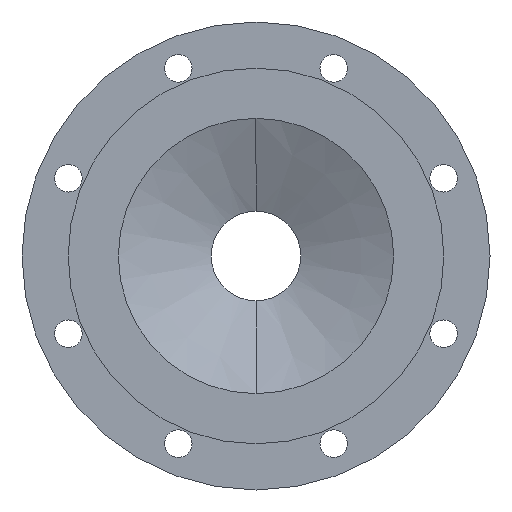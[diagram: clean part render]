
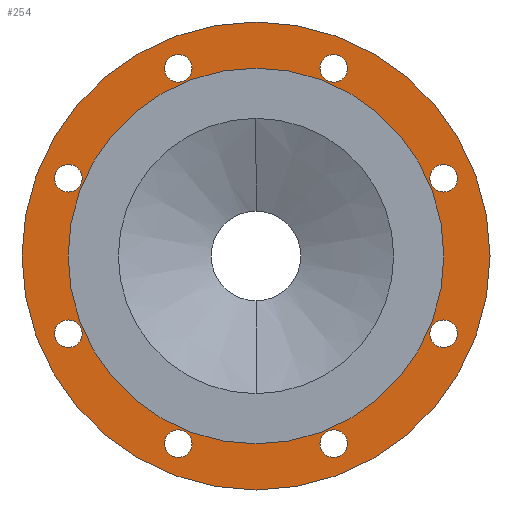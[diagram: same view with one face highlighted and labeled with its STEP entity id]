
A CAD part, left-side view. The second image highlights one B-rep face of the part: STEP entity #254.
In plain terms, the highlighted planar face has unit normal (-1, 0, 0).
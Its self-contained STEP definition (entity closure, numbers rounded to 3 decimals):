
#254=ADVANCED_FACE('',(#510,#511,#512,#513,#514,#515,#516,#517,#518,#519),#520,.F.);
#510=FACE_BOUND('',#835,.T.);
#511=FACE_BOUND('',#836,.T.);
#512=FACE_BOUND('',#837,.T.);
#513=FACE_BOUND('',#838,.T.);
#514=FACE_BOUND('',#839,.T.);
#515=FACE_BOUND('',#840,.T.);
#516=FACE_BOUND('',#841,.T.);
#517=FACE_BOUND('',#842,.T.);
#518=FACE_BOUND('',#843,.T.);
#519=FACE_OUTER_BOUND('',#844,.T.);
#520=PLANE('',#845);
#835=EDGE_LOOP('',(#1243,#1244));
#836=EDGE_LOOP('',(#1245,#1246));
#837=EDGE_LOOP('',(#1247,#1248));
#838=EDGE_LOOP('',(#1249,#1250));
#839=EDGE_LOOP('',(#1251,#1252));
#840=EDGE_LOOP('',(#1253,#1254));
#841=EDGE_LOOP('',(#1255,#1256));
#842=EDGE_LOOP('',(#1257,#1258));
#843=EDGE_LOOP('',(#1259,#1260));
#844=EDGE_LOOP('',(#1261,#1262));
#845=AXIS2_PLACEMENT_3D('',#1263,#1264,#1265);
#1243=ORIENTED_EDGE('',*,*,#1820,.T.);
#1244=ORIENTED_EDGE('',*,*,#1821,.T.);
#1245=ORIENTED_EDGE('',*,*,#1822,.T.);
#1246=ORIENTED_EDGE('',*,*,#1823,.T.);
#1247=ORIENTED_EDGE('',*,*,#1714,.T.);
#1248=ORIENTED_EDGE('',*,*,#1824,.T.);
#1249=ORIENTED_EDGE('',*,*,#1825,.T.);
#1250=ORIENTED_EDGE('',*,*,#1722,.T.);
#1251=ORIENTED_EDGE('',*,*,#1703,.T.);
#1252=ORIENTED_EDGE('',*,*,#1826,.T.);
#1253=ORIENTED_EDGE('',*,*,#1800,.T.);
#1254=ORIENTED_EDGE('',*,*,#1827,.T.);
#1255=ORIENTED_EDGE('',*,*,#1828,.T.);
#1256=ORIENTED_EDGE('',*,*,#1829,.T.);
#1257=ORIENTED_EDGE('',*,*,#1830,.T.);
#1258=ORIENTED_EDGE('',*,*,#1817,.T.);
#1259=ORIENTED_EDGE('',*,*,#1709,.T.);
#1260=ORIENTED_EDGE('',*,*,#1788,.T.);
#1261=ORIENTED_EDGE('',*,*,#1831,.F.);
#1262=ORIENTED_EDGE('',*,*,#1730,.F.);
#1263=CARTESIAN_POINT('',(1.0,0.0,0.));
#1264=DIRECTION('',(1.0,0.0,0.));
#1265=DIRECTION('',(0.,0.0,-1.0));
#1703=EDGE_CURVE('',#1974,#1978,#1980,.T.);
#1709=EDGE_CURVE('',#1984,#1988,#1990,.T.);
#1714=EDGE_CURVE('',#1993,#1997,#1999,.T.);
#1722=EDGE_CURVE('',#2013,#2011,#2014,.T.);
#1730=EDGE_CURVE('',#2025,#2020,#2027,.T.);
#1788=EDGE_CURVE('',#1988,#1984,#2121,.T.);
#1800=EDGE_CURVE('',#2134,#2136,#2138,.T.);
#1817=EDGE_CURVE('',#2166,#2164,#2167,.T.);
#1820=EDGE_CURVE('',#2170,#2171,#2172,.T.);
#1821=EDGE_CURVE('',#2171,#2170,#2173,.T.);
#1822=EDGE_CURVE('',#2174,#2175,#2176,.T.);
#1823=EDGE_CURVE('',#2175,#2174,#2177,.T.);
#1824=EDGE_CURVE('',#1997,#1993,#2178,.T.);
#1825=EDGE_CURVE('',#2011,#2013,#2179,.T.);
#1826=EDGE_CURVE('',#1978,#1974,#2180,.T.);
#1827=EDGE_CURVE('',#2136,#2134,#2181,.T.);
#1828=EDGE_CURVE('',#2182,#2183,#2184,.T.);
#1829=EDGE_CURVE('',#2183,#2182,#2185,.T.);
#1830=EDGE_CURVE('',#2164,#2166,#2186,.T.);
#1831=EDGE_CURVE('',#2020,#2025,#2187,.T.);
#1974=VERTEX_POINT('',#2359);
#1978=VERTEX_POINT('',#2364);
#1980=CIRCLE('',#2367,10.0);
#1984=VERTEX_POINT('',#2371);
#1988=VERTEX_POINT('',#2376);
#1990=CIRCLE('',#2379,136.5);
#1993=VERTEX_POINT('',#2382);
#1997=VERTEX_POINT('',#2387);
#1999=CIRCLE('',#2390,10.0);
#2011=VERTEX_POINT('',#2406);
#2013=VERTEX_POINT('',#2409);
#2014=CIRCLE('',#2410,10.0);
#2020=VERTEX_POINT('',#2417);
#2025=VERTEX_POINT('',#2423);
#2027=CIRCLE('',#2426,170.0);
#2121=CIRCLE('',#2549,136.5);
#2134=VERTEX_POINT('',#2567);
#2136=VERTEX_POINT('',#2570);
#2138=CIRCLE('',#2573,10.0);
#2164=VERTEX_POINT('',#2606);
#2166=VERTEX_POINT('',#2609);
#2167=CIRCLE('',#2610,10.0);
#2170=VERTEX_POINT('',#2614);
#2171=VERTEX_POINT('',#2615);
#2172=CIRCLE('',#2616,10.0);
#2173=CIRCLE('',#2617,10.0);
#2174=VERTEX_POINT('',#2618);
#2175=VERTEX_POINT('',#2619);
#2176=CIRCLE('',#2620,10.0);
#2177=CIRCLE('',#2621,10.0);
#2178=CIRCLE('',#2622,10.0);
#2179=CIRCLE('',#2623,10.0);
#2180=CIRCLE('',#2624,10.0);
#2181=CIRCLE('',#2625,10.0);
#2182=VERTEX_POINT('',#2626);
#2183=VERTEX_POINT('',#2627);
#2184=CIRCLE('',#2628,10.0);
#2185=CIRCLE('',#2629,10.0);
#2186=CIRCLE('',#2630,10.0);
#2187=CIRCLE('',#2631,170.0);
#2359=CARTESIAN_POINT('',(1.0,136.272,46.446));
#2364=CARTESIAN_POINT('',(1.,136.272,66.446));
#2367=AXIS2_PLACEMENT_3D('',#2836,#2837,#2838);
#2371=CARTESIAN_POINT('',(1.,0.0,-136.5));
#2376=CARTESIAN_POINT('',(1.,0.,136.5));
#2379=AXIS2_PLACEMENT_3D('',#2844,#2845,#2846);
#2382=CARTESIAN_POINT('',(1.0,-136.272,46.446));
#2387=CARTESIAN_POINT('',(1.,-136.272,66.446));
#2390=AXIS2_PLACEMENT_3D('',#2852,#2853,#2854);
#2406=CARTESIAN_POINT('',(1.0,-56.446,126.272));
#2409=CARTESIAN_POINT('',(1.,-56.446,146.272));
#2410=AXIS2_PLACEMENT_3D('',#2860,#2861,#2862);
#2417=CARTESIAN_POINT('',(1.,0.0,-170.0));
#2423=CARTESIAN_POINT('',(1.,0.,170.0));
#2426=AXIS2_PLACEMENT_3D('',#2872,#2873,#2874);
#2549=AXIS2_PLACEMENT_3D('',#2955,#2956,#2957);
#2567=CARTESIAN_POINT('',(1.0,56.446,126.272));
#2570=CARTESIAN_POINT('',(1.,56.446,146.272));
#2573=AXIS2_PLACEMENT_3D('',#2965,#2966,#2967);
#2606=CARTESIAN_POINT('',(1.0,-56.446,-146.272));
#2609=CARTESIAN_POINT('',(1.,-56.446,-126.272));
#2610=AXIS2_PLACEMENT_3D('',#2988,#2989,#2990);
#2614=CARTESIAN_POINT('',(1.0,136.272,-66.446));
#2615=CARTESIAN_POINT('',(1.0,136.272,-46.446));
#2616=AXIS2_PLACEMENT_3D('',#2992,#2993,#2994);
#2617=AXIS2_PLACEMENT_3D('',#2995,#2996,#2997);
#2618=CARTESIAN_POINT('',(1.0,56.446,-146.272));
#2619=CARTESIAN_POINT('',(1.,56.446,-126.272));
#2620=AXIS2_PLACEMENT_3D('',#2998,#2999,#3000);
#2621=AXIS2_PLACEMENT_3D('',#3001,#3002,#3003);
#2622=AXIS2_PLACEMENT_3D('',#3004,#3005,#3006);
#2623=AXIS2_PLACEMENT_3D('',#3007,#3008,#3009);
#2624=AXIS2_PLACEMENT_3D('',#3010,#3011,#3012);
#2625=AXIS2_PLACEMENT_3D('',#3013,#3014,#3015);
#2626=CARTESIAN_POINT('',(1.0,-136.272,-66.446));
#2627=CARTESIAN_POINT('',(1.0,-136.272,-46.446));
#2628=AXIS2_PLACEMENT_3D('',#3016,#3017,#3018);
#2629=AXIS2_PLACEMENT_3D('',#3019,#3020,#3021);
#2630=AXIS2_PLACEMENT_3D('',#3022,#3023,#3024);
#2631=AXIS2_PLACEMENT_3D('',#3025,#3026,#3027);
#2836=CARTESIAN_POINT('',(1.,136.272,56.446));
#2837=DIRECTION('',(1.0,0.0,0.));
#2838=DIRECTION('',(0.,0.0,-1.0));
#2844=CARTESIAN_POINT('',(1.0,0.0,0.));
#2845=DIRECTION('',(1.0,0.0,0.));
#2846=DIRECTION('',(0.,0.0,-1.0));
#2852=CARTESIAN_POINT('',(1.,-136.272,56.446));
#2853=DIRECTION('',(1.0,0.0,0.));
#2854=DIRECTION('',(0.,0.0,-1.0));
#2860=CARTESIAN_POINT('',(1.,-56.446,136.272));
#2861=DIRECTION('',(1.0,0.0,0.));
#2862=DIRECTION('',(0.,0.0,-1.0));
#2872=CARTESIAN_POINT('',(1.0,0.0,0.));
#2873=DIRECTION('',(1.0,0.0,0.));
#2874=DIRECTION('',(0.,0.0,-1.0));
#2955=CARTESIAN_POINT('',(1.0,0.0,0.));
#2956=DIRECTION('',(1.0,0.0,0.));
#2957=DIRECTION('',(0.,0.0,-1.0));
#2965=CARTESIAN_POINT('',(1.,56.446,136.272));
#2966=DIRECTION('',(1.0,0.0,0.));
#2967=DIRECTION('',(0.,0.0,-1.0));
#2988=CARTESIAN_POINT('',(1.,-56.446,-136.272));
#2989=DIRECTION('',(1.0,0.0,0.));
#2990=DIRECTION('',(0.,0.0,-1.0));
#2992=CARTESIAN_POINT('',(1.0,136.272,-56.446));
#2993=DIRECTION('',(1.0,0.0,0.));
#2994=DIRECTION('',(0.,0.0,-1.0));
#2995=CARTESIAN_POINT('',(1.0,136.272,-56.446));
#2996=DIRECTION('',(1.0,0.0,0.));
#2997=DIRECTION('',(0.,0.0,-1.0));
#2998=CARTESIAN_POINT('',(1.,56.446,-136.272));
#2999=DIRECTION('',(1.0,0.0,0.));
#3000=DIRECTION('',(0.,0.0,-1.0));
#3001=CARTESIAN_POINT('',(1.,56.446,-136.272));
#3002=DIRECTION('',(1.0,0.0,0.));
#3003=DIRECTION('',(0.,0.0,-1.0));
#3004=CARTESIAN_POINT('',(1.,-136.272,56.446));
#3005=DIRECTION('',(1.0,0.0,0.));
#3006=DIRECTION('',(0.,0.0,-1.0));
#3007=CARTESIAN_POINT('',(1.,-56.446,136.272));
#3008=DIRECTION('',(1.0,0.0,0.));
#3009=DIRECTION('',(0.,0.0,-1.0));
#3010=CARTESIAN_POINT('',(1.,136.272,56.446));
#3011=DIRECTION('',(1.0,0.0,0.));
#3012=DIRECTION('',(0.,0.0,-1.0));
#3013=CARTESIAN_POINT('',(1.,56.446,136.272));
#3014=DIRECTION('',(1.0,0.0,0.));
#3015=DIRECTION('',(0.,0.0,-1.0));
#3016=CARTESIAN_POINT('',(1.0,-136.272,-56.446));
#3017=DIRECTION('',(1.0,0.0,0.));
#3018=DIRECTION('',(0.,0.0,-1.0));
#3019=CARTESIAN_POINT('',(1.0,-136.272,-56.446));
#3020=DIRECTION('',(1.0,0.0,0.));
#3021=DIRECTION('',(0.,0.0,-1.0));
#3022=CARTESIAN_POINT('',(1.,-56.446,-136.272));
#3023=DIRECTION('',(1.0,0.0,0.));
#3024=DIRECTION('',(0.,0.0,-1.0));
#3025=CARTESIAN_POINT('',(1.0,0.0,0.));
#3026=DIRECTION('',(1.0,0.0,0.));
#3027=DIRECTION('',(0.,0.0,-1.0));
